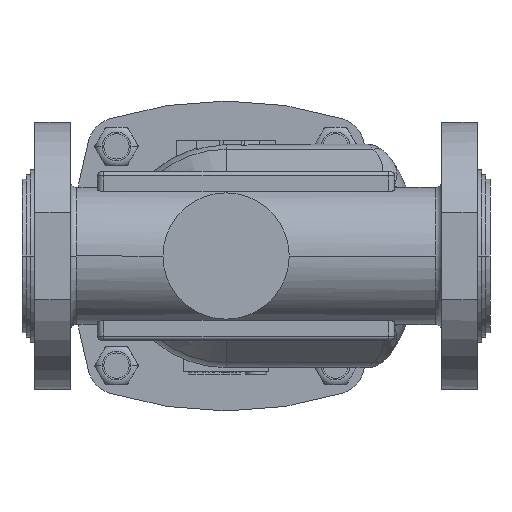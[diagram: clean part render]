
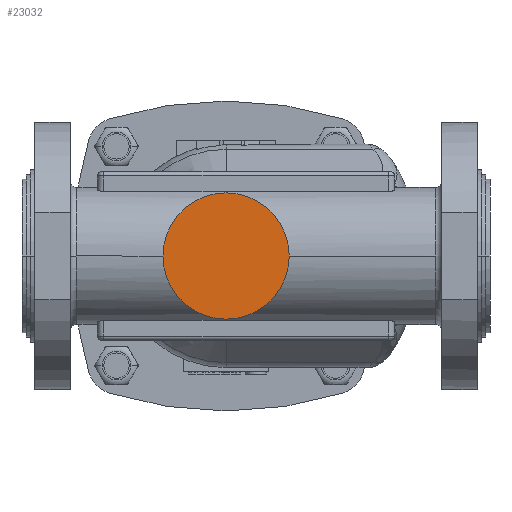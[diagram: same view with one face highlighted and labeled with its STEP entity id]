
A CAD part, front view. The second image highlights one B-rep face of the part: STEP entity #23032.
In plain terms, the highlighted planar face has unit normal (0, -1, 0).
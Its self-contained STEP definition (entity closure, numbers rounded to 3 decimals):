
#8261=CARTESIAN_POINT('',(0.,-60.,0.));
#8262=DIRECTION('',(0.,1.,0.));
#8263=DIRECTION('',(-1.,0.,0.));
#8264=AXIS2_PLACEMENT_3D('',#8261,#8262,#8263);
#8266=CARTESIAN_POINT('',(0.,-60.,0.));
#8267=DIRECTION('',(0.,-1.,0.));
#8268=DIRECTION('',(-1.,0.,0.));
#8269=AXIS2_PLACEMENT_3D('',#8266,#8267,#8268);
#9518=CARTESIAN_POINT('',(-29.95,-60.,0.));
#9519=VERTEX_POINT('',#9518);
#9532=CARTESIAN_POINT('',(29.95,-60.,0.));
#9533=VERTEX_POINT('',#9532);
#23023=CARTESIAN_POINT('',(0.,-60.,0.));
#23024=DIRECTION('',(0.,-1.,0.));
#23025=DIRECTION('',(-1.,0.,0.));
#23026=AXIS2_PLACEMENT_3D('',#23023,#23024,#23025);
#23027=PLANE('',#23026);
#23028=ORIENTED_EDGE('',*,*,#23018,.T.);
#23029=ORIENTED_EDGE('',*,*,#23002,.F.);
#23030=EDGE_LOOP('',(#23028,#23029));
#23031=FACE_OUTER_BOUND('',#23030,.F.);
#23032=ADVANCED_FACE('',(#23031),#23027,.T.);
#8265=CIRCLE('',#8264,29.95);
#8270=CIRCLE('',#8269,29.95);
#23002=EDGE_CURVE('',#9519,#9533,#8270,.T.);
#23018=EDGE_CURVE('',#9519,#9533,#8265,.T.);
